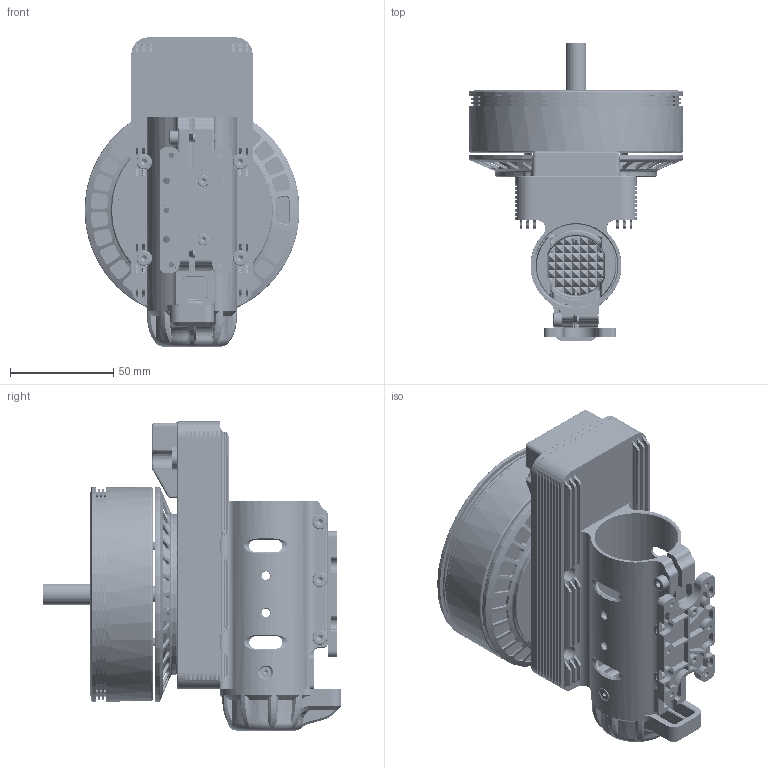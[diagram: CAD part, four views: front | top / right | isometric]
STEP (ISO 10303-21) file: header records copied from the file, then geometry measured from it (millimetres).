
FILE_DESCRIPTION((''),'2;1');
FILE_NAME('1550127C0','2019-02-18T',('owner'),(''),'PRO/ENGINEER BY PARAMETRIC TECHNOLOGY CORPORATION, 2014320','PRO/ENGINEER BY PARAMETRIC TECHNOLOGY CORPORATION, 2014320','');
FILE_SCHEMA(('CONFIG_CONTROL_DESIGN','SHAPE_APPEARANCE_LAYERS_GROUPS'));
Length unit declared in the file: millimetre
Products named in the file (1): 1550127C0
Bounding box: 104 x 144.4 x 149.6 mm (x, y, z)
Volume: 512366.7 mm3; surface area: 132480.9 mm2
Topology: 2 solids, 33 shells, 5706 faces, 17257 edges, 10886 vertices
Faces by surface type: plane 2784, cylinder 1422, cone 1067, extrusion 220, bspline 135, torus 65, revolution 8, sphere 5
Entity records: 216823 total; most frequent: CARTESIAN_POINT 59260, ORIENTED_EDGE 34414, DIRECTION 31636, EDGE_CURVE 17207, VERTEX_POINT 10886, VECTOR 10544, AXIS2_PLACEMENT_3D 10542, LINE 10324
